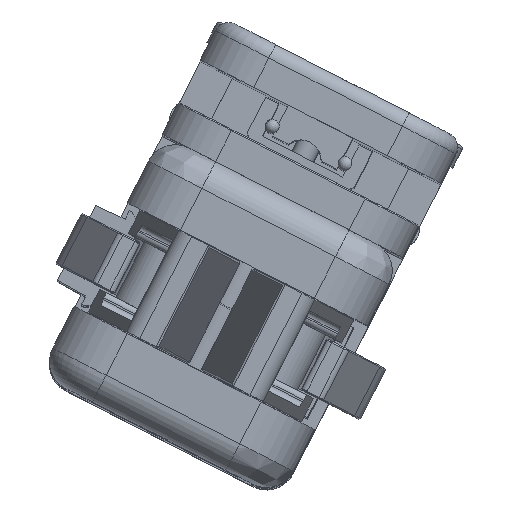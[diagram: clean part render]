
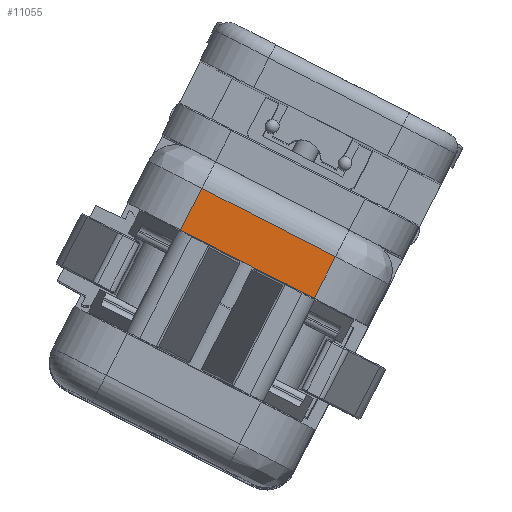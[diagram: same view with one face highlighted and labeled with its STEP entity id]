
A CAD part, top view. The second image highlights one B-rep face of the part: STEP entity #11055.
In plain terms, the highlighted planar face has unit normal (0, 0, 1).
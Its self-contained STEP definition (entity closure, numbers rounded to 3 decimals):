
#11055=ADVANCED_FACE('',(#12993),#12245,.F.);
#12245=PLANE('',#29802);
#12993=FACE_OUTER_BOUND('',#14018,.T.);
#14018=EDGE_LOOP('',(#17424,#17425,#17426,#17427));
#17424=ORIENTED_EDGE('',*,*,#24177,.F.);
#17425=ORIENTED_EDGE('',*,*,#24178,.T.);
#17426=ORIENTED_EDGE('',*,*,#24179,.F.);
#17427=ORIENTED_EDGE('',*,*,#24153,.F.);
#22178=VERTEX_POINT('',#39206);
#22181=VERTEX_POINT('',#39235);
#22191=VERTEX_POINT('',#39395);
#22192=VERTEX_POINT('',#39399);
#24153=EDGE_CURVE('',#22181,#22178,#26533,.T.);
#24177=EDGE_CURVE('',#22191,#22181,#26540,.T.);
#24178=EDGE_CURVE('',#22191,#22192,#26541,.T.);
#24179=EDGE_CURVE('',#22178,#22192,#26542,.T.);
#26533=LINE('',#39236,#28085);
#26540=LINE('',#39396,#28092);
#26541=LINE('',#39398,#28093);
#26542=LINE('',#39400,#28094);
#28085=VECTOR('',#32875,1.);
#28092=VECTOR('',#32924,1.);
#28093=VECTOR('',#32927,1.);
#28094=VECTOR('',#32928,1.);
#29802=AXIS2_PLACEMENT_3D('',#39401,#32929,#32930);
#32875=DIRECTION('',(0.89,-0.456,0.));
#32924=DIRECTION('',(0.456,0.89,0.));
#32927=DIRECTION('',(0.89,-0.456,0.));
#32928=DIRECTION('',(-0.456,-0.89,0.));
#32929=DIRECTION('',(0.,0.,-1.));
#32930=DIRECTION('',(0.89,-0.456,0.));
#39206=CARTESIAN_POINT('',(19.103,9.878,349.));
#39235=CARTESIAN_POINT('',(-3.149,21.274,349.));
#39236=CARTESIAN_POINT('',(7.977,15.576,349.));
#39395=CARTESIAN_POINT('',(-6.704,14.331,349.));
#39396=CARTESIAN_POINT('',(-0.87,25.724,349.));
#39398=CARTESIAN_POINT('',(4.421,8.634,349.));
#39399=CARTESIAN_POINT('',(15.547,2.936,349.));
#39400=CARTESIAN_POINT('',(21.382,14.329,349.));
#39401=CARTESIAN_POINT('',(30.283,9.771,349.));
